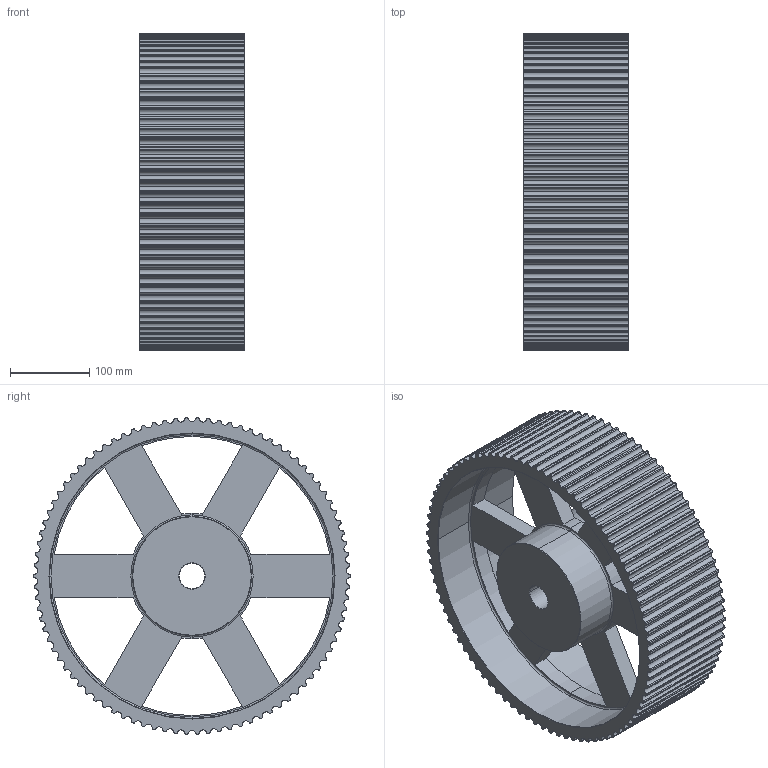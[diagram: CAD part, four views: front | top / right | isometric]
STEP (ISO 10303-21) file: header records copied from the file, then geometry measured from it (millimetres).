
FILE_DESCRIPTION(('STEP AP214'),'1');
FILE_NAME('90_-_14_m_115.stp','2018-04-03T06:02:13',('TraceParts'),('TraceParts S.A.'),'Spatial InterOp 3D',' ',' ');
FILE_SCHEMA(('automotive_design'));
Length unit declared in the file: millimetre
Products named in the file (1): 90_-_14_m_115
Bounding box: 133 x 398.28 x 398.11 mm (x, y, z)
Volume: 5678883.3 mm3; surface area: 605558.2 mm2
Topology: 1 solids, 1 shells, 514 faces, 1512 edges, 1004 vertices
Faces by surface type: cylinder 476, plane 18, cone 12, torus 8
Entity records: 17751 total; most frequent: DIRECTION 3530, CARTESIAN_POINT 3031, ORIENTED_EDGE 3024, EDGE_CURVE 1512, AXIS2_PLACEMENT_3D 1503, VERTEX_POINT 1004, CIRCLE 988, EDGE_LOOP 532
